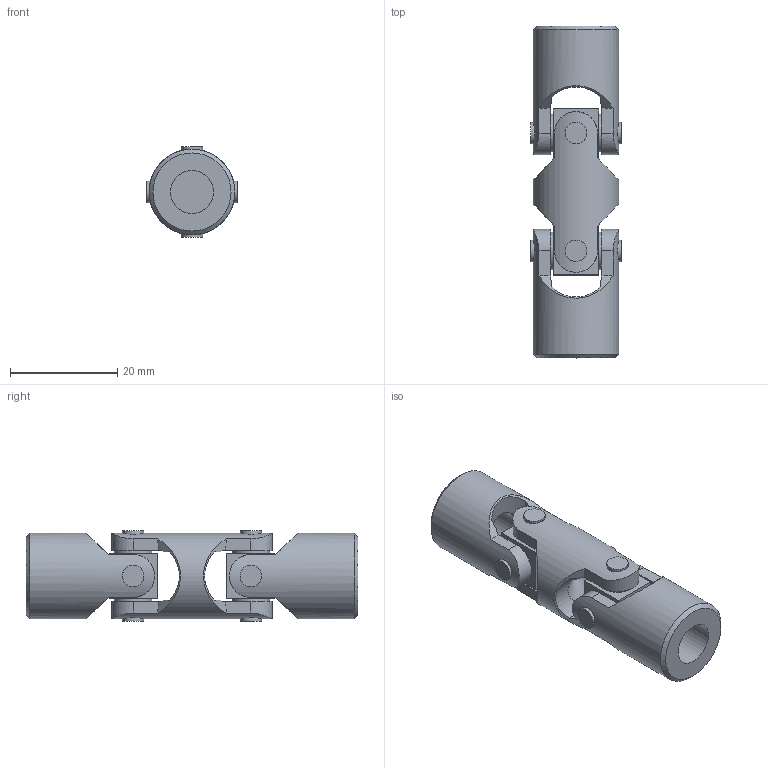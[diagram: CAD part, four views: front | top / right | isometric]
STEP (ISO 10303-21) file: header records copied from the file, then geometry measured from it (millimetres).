
FILE_DESCRIPTION(/* description */ (''),/* implementation_level */ '2;1');
FILE_NAME(/* name */ '\\SRV2016\Societa\Stefano\Disegni 3D\0Catalogo 3D\14Doppi XD\Ø16_02XD_SX0D0800.stp',/* time_stamp */ '2023-05-15T08:29:52+02:00',/* author */ ('acquisti'),/* organization */ (''),/* preprocessor_version */ 'ST-DEVELOPER v15.6',/* originating_system */ 'Autodesk Inventor 2015',/* authorisation */ '');
FILE_SCHEMA (('AUTOMOTIVE_DESIGN { 1 0 10303 214 3 1 1 }'));
Length unit declared in the file: millimetre
Products named in the file (4): 01X MOD; 01-02X SFE; 02X MOS; Ø16_02XD_SX0D0800
Assembly tree (5 placements, depth 2):
  Ø16_02XD_SX0D0800
    01X MOD
    01-02X SFE  x2
    02X MOS  x2
Bounding box: 16.9 x 62 x 16.9 mm (x, y, z)
Volume: 8320 mm3; surface area: 6000.8 mm2
Topology: 5 solids, 5 shells, 121 faces, 307 edges, 208 vertices
Faces by surface type: plane 62, cylinder 33, cone 22, torus 4
Full cylindrical faces by diameter (mm): 4 x8, 7 x8, 8 x2, 8.5 x4, 16 x3
Entity records: 2956 total; most frequent: CARTESIAN_POINT 1100, ORIENTED_EDGE 362, DIRECTION 346, EDGE_CURVE 181, AXIS2_PLACEMENT_3D 149, VERTEX_POINT 135, EDGE_LOOP 116, FACE_OUTER_BOUND 82
